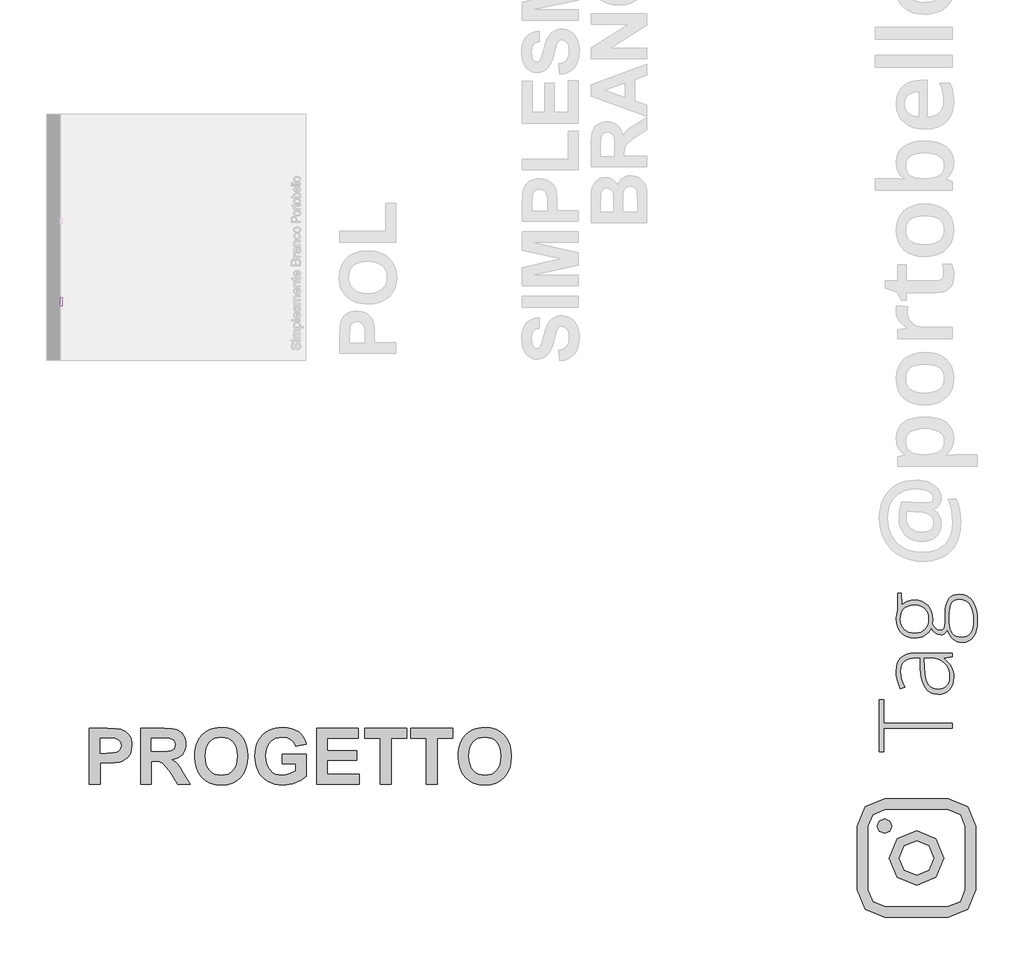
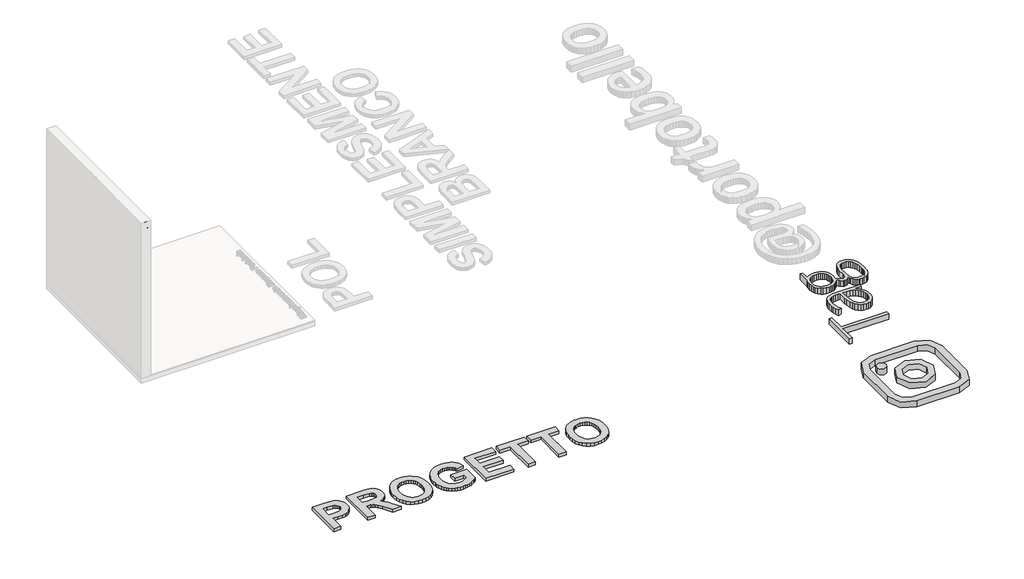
# One storey, part 2 of 6: 4 proxies.
"""IFC4 building model written with IfcOpenShell, lengths in millimetres."""

from ifc_helpers import new_model, si_unit, frame, origin, origin_with_axes, place, context, project, spatial, polyline, outline, extrude, transform, mapped, element, save
from components import generic_models_d67f6705

model = new_model("IFC4")

# Units and contexts
model_context = context("Model", 3, world=origin())
ifc_project = project(units=[si_unit("LENGTHUNIT", "METRE", prefix="MILLI")], contexts=[model_context])

# Site, building, storey
site = spatial("IfcSite", under=ifc_project)
building = spatial("IfcBuilding", under=site)
storey = spatial("IfcBuildingStorey", under=building, Name="PORTOBELLO - SHOWROOM", Elevation=0.0)

# Proxies
placement = place(None, origin())
generic_models_shape = generic_models_d67f6705(model_context)
element("IfcBuildingElementProxy", 1, Name="Blks_Instagram1 : Único 2", ObjectType="Blks_Instagram1 : Único 2", at=placement, inside=storey, context=model_context, shape_type="MappedRepresentation", body=[
    mapped(generic_models_shape, transform((250579.4311931, -13501.2406298, 0.0), x_axis=(-1.0, 0.0, 0.0), y_axis=(0.0, -1.0, 0.0), z_axis=(0.0, 0.0, 1.0))),
])
element("IfcBuildingElementProxy", 2, Name="10mm Arial", ObjectType="10mm Arial", at=placement, inside=storey, context=model_context, shape_type="SweptSolid", body=[
    extrude(outline(polyline([(-7937.0459991, 2512.7580215), (-7924.4889603, 2512.7580215), (-7920.4422583, 2500.18872), (-7910.5584954, 2492.242469), (-7895.4998591, 2489.2135739), (-7882.3787346, 2491.506705), (-7873.9051859, 2497.8097498), (-7871.1215455, 2506.2342475), (-7873.2062102, 2514.070134), (-7881.7410724, 2519.7723049), (-7900.0248076, 2524.5670336), (-7919.7064943, 2530.7597138), (-7930.3873349, 2540.1039165), (-7933.9067394, 2552.5873789), (-7929.5534691, 2566.7998866), (-7916.8370148, 2576.8308024), (-7898.2221858, 2580.2521049), (-7878.3565581, 2576.6713868), (-7865.1128063, 2566.1499618), (-7860.1341366, 2550.4291379), (-7872.6911754, 2550.4291379), (-7874.9965692, 2557.9216678), (-7879.8035606, 2563.3295332), (-7897.7316765, 2567.6950662), (-7915.7088433, 2563.3785841), (-7921.3497006, 2552.9552609), (-7917.3520496, 2544.2487203), (-7896.8487597, 2537.234437), (-7874.6286872, 2530.9313921), (-7862.4763186, 2520.7533236), (-7858.5645067, 2506.5530786), (-7863.0649298, 2491.5312304), (-7876.0143761, 2480.568347), (-7895.0093497, 2476.6565351), (-7917.4378887, 2480.8749153), (-7931.625871, 2493.5791069), (-7937.0459991, 2512.7580215)])), frame((241170.995962, 0.0, 0.0), z_axis=(1.0, 0.0, 0.0), x_axis=(0.0, 1.0, 0.0)), (0.0, 0.0, 1.0), 20.0),
    extrude(outline(polyline([(241190.995962, -7828.7415397), (241190.995962, -7841.2985784), (241170.995962, -7841.2985784), (241170.995962, -7828.7415397), (241190.995962, -7828.7415397)])), frame((0.0, 0.0, 2566.1254363), z_axis=(0.0, 0.0, 1.0), x_axis=(1.0, 0.0, 0.0)), (0.0, 0.0, 1.0), 12.5570388),
    extrude(outline(polyline([(241190.995962, -7828.7415397), (241190.995962, -7841.2985784), (241170.995962, -7841.2985784), (241170.995962, -7828.7415397), (241190.995962, -7828.7415397)])), frame((0.0, 0.0, 2478.2261649), z_axis=(0.0, 0.0, 1.0), x_axis=(1.0, 0.0, 0.0)), (0.0, 0.0, 1.0), 73.7726028),
    extrude(outline(polyline([(-7809.9059815, 2478.2261649), (-7809.9059815, 2551.9987677), (-7797.3489427, 2551.9987677), (-7797.3489427, 2539.8586619), (-7788.7159786, 2549.8037385), (-7776.42872, 2553.5683975), (-7763.8471557, 2549.7301621), (-7756.9309742, 2538.9757451), (-7747.1330504, 2549.9202344), (-7734.7599526, 2553.5683975), (-7725.3207138, 2552.0508843), (-7718.3401529, 2547.4983446), (-7714.0267365, 2539.7881511), (-7712.5889311, 2528.7976765), (-7712.5889311, 2478.2261649), (-7725.1459698, 2478.2261649), (-7725.1459698, 2523.4020739), (-7726.3109295, 2533.8867108), (-7730.5293097, 2539.0493215), (-7737.7030086, 2541.0113588), (-7750.0515809, 2535.9836382), (-7753.7395979, 2529.44147), (-7754.9689369, 2519.8704068), (-7754.9689369, 2478.2261649), (-7767.5259757, 2478.2261649), (-7767.5259757, 2524.8000255), (-7770.4322434, 2536.9646568), (-7779.9603871, 2541.0113588), (-7789.2555389, 2538.3135575), (-7795.4359564, 2530.4163573), (-7797.3489427, 2515.4312974), (-7797.3489427, 2478.2261649), (-7809.9059815, 2478.2261649)])), frame((241170.995962, 0.0, 0.0), z_axis=(1.0, 0.0, 0.0), x_axis=(0.0, 1.0, 0.0)), (0.0, 0.0, 1.0), 20.0),
    extrude(outline(polyline([(-7693.7533729, 2449.9728277), (-7693.7533729, 2551.9987677), (-7681.1963341, 2551.9987677), (-7681.1963341, 2539.6869836), (-7672.5143191, 2550.0980441), (-7660.7911461, 2553.5683975), (-7644.8741185, 2548.7123552), (-7634.4753208, 2535.027145), (-7630.9681791, 2515.676552), (-7634.9290419, 2495.3326777), (-7646.4314856, 2481.4757892), (-7662.3117251, 2476.6565351), (-7673.2378203, 2479.8816339), (-7681.1963341, 2488.0363515), (-7681.1963341, 2449.9728277), (-7693.7533729, 2449.9728277)]), holes=[polyline([(-7681.1963341, 2514.5238551), (-7679.8382364, 2503.2666661), (-7675.7639433, 2495.3939914), (-7669.7521384, 2490.7586782), (-7662.5815052, 2489.2135739), (-7655.294376, 2490.8138605), (-7649.1292869, 2495.6147206), (-7644.9262351, 2503.7755695), (-7643.5252178, 2515.4558228), (-7644.8925126, 2526.6516982), (-7648.9943968, 2534.6347375), (-7654.9970047, 2539.4172035), (-7662.0664704, 2541.0113588), (-7669.1635272, 2539.3160359), (-7675.3960613, 2534.2300673), (-7679.7462659, 2525.9128686), (-7681.1963341, 2514.5238551)])]), frame((241170.995962, 0.0, 0.0), z_axis=(1.0, 0.0, 0.0), x_axis=(0.0, 1.0, 0.0)), (0.0, 0.0, 1.0), 20.0),
    extrude(outline(polyline([(241190.995962, -7604.2844717), (241190.995962, -7616.8415104), (241170.995962, -7616.8415104), (241170.995962, -7604.2844717), (241190.995962, -7604.2844717)])), frame((0.0, 0.0, 2478.2261649), z_axis=(0.0, 0.0, 1.0), x_axis=(1.0, 0.0, 0.0)), (0.0, 0.0, 1.0), 100.4563101),
    extrude(outline(polyline([(-7533.7982814, 2500.2009828), (-7521.4864973, 2498.6313529), (-7525.922541, 2489.3545953), (-7533.0012037, 2482.4200197), (-7542.5630699, 2478.0974062), (-7554.4487241, 2476.6565351), (-7569.182398, 2479.1428042), (-7580.5192948, 2486.6016117), (-7587.748176, 2498.5485795), (-7590.1578031, 2514.4993297), (-7587.7236505, 2530.9865744), (-7580.4211929, 2543.3167526), (-7569.2375803, 2551.0054863), (-7555.1599626, 2553.5683975), (-7541.5207376, 2551.0116177), (-7530.6222335, 2543.3412781), (-7523.4761258, 2531.0356253), (-7521.0940898, 2514.5729061), (-7521.1676662, 2511.1883917), (-7577.6007643, 2511.1883917), (-7575.4271948, 2501.7890067), (-7570.3780145, 2494.8789566), (-7563.0908853, 2490.6299195), (-7554.2034694, 2489.2135739), (-7541.8916853, 2491.8377988), (-7533.7982814, 2500.2009828)]), holes=[polyline([(-7577.6007643, 2523.7454305), (-7533.6511286, 2523.7454305), (-7538.6788492, 2535.1252469), (-7545.9997009, 2539.5398308), (-7555.2090135, 2541.0113588), (-7570.6723201, 2536.314732), (-7575.5375594, 2530.8240932), (-7577.6007643, 2523.7454305)])]), frame((241170.995962, 0.0, 0.0), z_axis=(1.0, 0.0, 0.0), x_axis=(0.0, 1.0, 0.0)), (0.0, 0.0, 1.0), 20.0),
    extrude(outline(polyline([(-7513.2459406, 2500.2009828), (-7500.6889018, 2501.7706126), (-7494.8763663, 2492.4509354), (-7481.5590381, 2489.2135739), (-7468.7567447, 2492.1811553), (-7464.5874154, 2499.1463877), (-7468.7812701, 2504.787245), (-7481.7061909, 2508.3679631), (-7500.6153254, 2514.5115924), (-7508.8681449, 2521.6852913), (-7511.6763108, 2531.8143089), (-7509.4199679, 2541.1707743), (-7503.2640758, 2548.3199478), (-7495.2810365, 2552.0355559), (-7484.4775686, 2553.5683975), (-7469.1982031, 2551.1035882), (-7459.4861184, 2544.4326613), (-7455.1696363, 2533.1632095), (-7467.7266751, 2531.5935797), (-7472.4478273, 2538.5220239), (-7483.4965499, 2541.0113588), (-7495.5140284, 2538.6323885), (-7499.119272, 2533.0896331), (-7497.6232185, 2529.4353387), (-7492.9388545, 2526.663961), (-7482.1231238, 2523.9906851), (-7463.6922359, 2518.0800477), (-7455.1328481, 2511.3845954), (-7452.0303766, 2500.4707629), (-7455.6724084, 2488.4532844), (-7466.1815707, 2479.7344811), (-7481.7307164, 2476.6565351), (-7494.3919884, 2478.1403258), (-7503.6319578, 2482.5916979), (-7509.8001126, 2489.9616006), (-7513.2459406, 2500.2009828)])), frame((241170.995962, 0.0, 0.0), z_axis=(1.0, 0.0, 0.0), x_axis=(0.0, 1.0, 0.0)), (0.0, 0.0, 1.0), 20.0),
    extrude(outline(polyline([(-7437.903708, 2478.2261649), (-7437.903708, 2551.9987677), (-7425.3466692, 2551.9987677), (-7425.3466692, 2539.8586619), (-7416.7137051, 2549.8037385), (-7404.4264464, 2553.5683975), (-7391.8448822, 2549.7301621), (-7384.9287007, 2538.9757451), (-7375.1307769, 2549.9202344), (-7362.7576791, 2553.5683975), (-7353.3184403, 2552.0508843), (-7346.3378794, 2547.4983446), (-7342.024463, 2539.7881511), (-7340.5866575, 2528.7976765), (-7340.5866575, 2478.2261649), (-7353.1436963, 2478.2261649), (-7353.1436963, 2523.4020739), (-7354.308656, 2533.8867108), (-7358.5270362, 2539.0493215), (-7365.7007351, 2541.0113588), (-7378.0493074, 2535.9836382), (-7381.7373244, 2529.44147), (-7382.9666634, 2519.8704068), (-7382.9666634, 2478.2261649), (-7395.5237021, 2478.2261649), (-7395.5237021, 2524.8000255), (-7398.4299699, 2536.9646568), (-7407.9581136, 2541.0113588), (-7417.2532653, 2538.3135575), (-7423.4336829, 2530.4163573), (-7425.3466692, 2515.4312974), (-7425.3466692, 2478.2261649), (-7437.903708, 2478.2261649)])), frame((241170.995962, 0.0, 0.0), z_axis=(1.0, 0.0, 0.0), x_axis=(0.0, 1.0, 0.0)), (0.0, 0.0, 1.0), 20.0),
    extrude(outline(polyline([(-7270.1004673, 2500.2009828), (-7257.7886832, 2498.6313529), (-7262.2247269, 2489.3545953), (-7269.3033896, 2482.4200197), (-7278.8652558, 2478.0974062), (-7290.7509099, 2476.6565351), (-7305.4845838, 2479.1428042), (-7316.8214806, 2486.6016117), (-7324.0503619, 2498.5485795), (-7326.4599889, 2514.4993297), (-7324.0258364, 2530.9865744), (-7316.7233788, 2543.3167526), (-7305.5397661, 2551.0054863), (-7291.4621484, 2553.5683975), (-7277.8229235, 2551.0116177), (-7266.9244194, 2543.3412781), (-7259.7783116, 2531.0356253), (-7257.3962757, 2514.5729061), (-7257.4698521, 2511.1883917), (-7313.9029502, 2511.1883917), (-7311.7293807, 2501.7890067), (-7306.6802003, 2494.8789566), (-7299.3930711, 2490.6299195), (-7290.5056553, 2489.2135739), (-7278.1938712, 2491.8377988), (-7270.1004673, 2500.2009828)]), holes=[polyline([(-7313.9029502, 2523.7454305), (-7269.9533145, 2523.7454305), (-7274.9810351, 2535.1252469), (-7282.3018868, 2539.5398308), (-7291.5111994, 2541.0113588), (-7306.9745059, 2536.314732), (-7311.8397453, 2530.8240932), (-7313.9029502, 2523.7454305)])]), frame((241170.995962, 0.0, 0.0), z_axis=(1.0, 0.0, 0.0), x_axis=(0.0, 1.0, 0.0)), (0.0, 0.0, 1.0), 20.0),
    extrude(outline(polyline([(-7244.8392369, 2478.2261649), (-7244.8392369, 2551.9987677), (-7232.2821982, 2551.9987677), (-7232.2821982, 2541.6980718), (-7222.6804781, 2550.6008161), (-7209.5716163, 2553.5683975), (-7197.7135533, 2551.1771646), (-7189.6201494, 2544.8986452), (-7185.8554904, 2535.6648071), (-7185.1933028, 2523.5247013), (-7185.1933028, 2478.2261649), (-7197.7503415, 2478.2261649), (-7197.7503415, 2521.8324441), (-7199.1973441, 2532.9424804), (-7204.3109038, 2538.8163295), (-7212.9316052, 2541.0113588), (-7226.5555018, 2536.08174), (-7230.8505241, 2528.938698), (-7232.2821982, 2517.3688092), (-7232.2821982, 2478.2261649), (-7244.8392369, 2478.2261649)])), frame((241170.995962, 0.0, 0.0), z_axis=(1.0, 0.0, 0.0), x_axis=(0.0, 1.0, 0.0)), (0.0, 0.0, 1.0), 20.0),
    extrude(outline(polyline([(-7141.2436671, 2488.6985391), (-7139.6740372, 2477.8582829), (-7149.0672908, 2476.6565351), (-7159.5887159, 2478.7411997), (-7164.8371657, 2484.2103787), (-7166.3577446, 2498.4596747), (-7166.3577446, 2539.4417289), (-7175.7755237, 2539.4417289), (-7175.7755237, 2551.9987677), (-7166.3577446, 2551.9987677), (-7166.3577446, 2569.9268836), (-7153.8007059, 2577.309049), (-7153.8007059, 2551.9987677), (-7141.2436671, 2551.9987677), (-7141.2436671, 2539.4417289), (-7153.8007059, 2539.4417289), (-7153.8007059, 2498.8275567), (-7153.1385183, 2492.3528336), (-7150.99254, 2490.0597024), (-7146.7128461, 2489.2135739), (-7141.2436671, 2488.6985391)])), frame((241170.995962, 0.0, 0.0), z_axis=(1.0, 0.0, 0.0), x_axis=(0.0, 1.0, 0.0)), (0.0, 0.0, 1.0), 20.0),
    extrude(outline(polyline([(-7077.0359962, 2500.2009828), (-7064.7242121, 2498.6313529), (-7069.1602558, 2489.3545953), (-7076.2389185, 2482.4200197), (-7085.8007847, 2478.0974062), (-7097.6864389, 2476.6565351), (-7112.4201128, 2479.1428042), (-7123.7570096, 2486.6016117), (-7130.9858908, 2498.5485795), (-7133.3955179, 2514.4993297), (-7130.9613653, 2530.9865744), (-7123.6589077, 2543.3167526), (-7112.4752951, 2551.0054863), (-7098.3976774, 2553.5683975), (-7084.7584524, 2551.0116177), (-7073.8599483, 2543.3412781), (-7066.7138405, 2531.0356253), (-7064.3318046, 2514.5729061), (-7064.405381, 2511.1883917), (-7120.8384791, 2511.1883917), (-7118.6649096, 2501.7890067), (-7113.6157292, 2494.8789566), (-7106.3286001, 2490.6299195), (-7097.4411842, 2489.2135739), (-7085.1294001, 2491.8377988), (-7077.0359962, 2500.2009828)]), holes=[polyline([(-7120.8384791, 2523.7454305), (-7076.8888434, 2523.7454305), (-7081.916564, 2535.1252469), (-7089.2374157, 2539.5398308), (-7098.4467283, 2541.0113588), (-7113.9100348, 2536.314732), (-7118.7752742, 2530.8240932), (-7120.8384791, 2523.7454305)])]), frame((241170.995962, 0.0, 0.0), z_axis=(1.0, 0.0, 0.0), x_axis=(0.0, 1.0, 0.0)), (0.0, 0.0, 1.0), 20.0),
    extrude(outline(polyline([(-7010.9643899, 2478.2261649), (-7010.9643899, 2578.6824751), (-6972.631086, 2578.6824751), (-6953.8568415, 2575.7271564), (-6942.7713307, 2566.6404711), (-6938.7614169, 2553.7891267), (-6942.1336686, 2542.0536911), (-6952.3239998, 2533.1632095), (-6939.9509021, 2523.7944814), (-6935.6221572, 2508.1717593), (-6938.5774759, 2494.6704901), (-6945.8983276, 2485.0565073), (-6956.8244229, 2479.9552103), (-6972.9253916, 2478.2261649), (-7010.9643899, 2478.2261649)]), holes=[polyline([(-6998.4073511, 2537.8720991), (-6975.4760401, 2537.8720991), (-6962.0851354, 2538.9512196), (-6954.0285197, 2543.5987955), (-6951.3184557, 2551.7780385), (-6953.8445787, 2559.9695443), (-6961.0795913, 2564.8133239), (-6977.2173482, 2566.1254363), (-6998.4073511, 2566.1254363), (-6998.4073511, 2537.8720991)]), polyline([(-6998.4073511, 2490.7832037), (-6972.6556114, 2490.7832037), (-6963.3359342, 2491.273713), (-6955.4509968, 2494.0083025), (-6950.2270725, 2499.5878461), (-6948.179196, 2508.049132), (-6950.5826917, 2517.8102676), (-6958.3695273, 2523.6350659), (-6973.8818847, 2525.3150603), (-6998.4073511, 2525.3150603), (-6998.4073511, 2490.7832037)])]), frame((241170.995962, 0.0, 0.0), z_axis=(1.0, 0.0, 0.0), x_axis=(0.0, 1.0, 0.0)), (0.0, 0.0, 1.0), 20.0),
    extrude(outline(polyline([(-6919.9258588, 2478.2261649), (-6919.9258588, 2551.9987677), (-6908.9384499, 2551.9987677), (-6908.9384499, 2541.0849352), (-6901.1393516, 2551.1403764), (-6893.2912023, 2553.5683975), (-6880.6851126, 2549.6933739), (-6884.8789674, 2538.4361848), (-6893.7081353, 2541.0113588), (-6900.8082578, 2538.5342867), (-6905.3332063, 2531.6671561), (-6907.36882, 2517.0009272), (-6907.36882, 2478.2261649), (-6919.9258588, 2478.2261649)])), frame((241170.995962, 0.0, 0.0), z_axis=(1.0, 0.0, 0.0), x_axis=(0.0, 1.0, 0.0)), (0.0, 0.0, 1.0), 20.0),
    extrude(outline(polyline([(-6825.748068, 2487.643944), (-6837.9249621, 2479.1336072), (-6851.3771804, 2476.6565351), (-6861.8710143, 2478.1464572), (-6869.6118646, 2482.6162234), (-6874.3851335, 2489.4036462), (-6875.9762231, 2497.846538), (-6873.5727274, 2507.7793519), (-6867.2574198, 2514.989839), (-6858.4650401, 2519.1101173), (-6847.6002585, 2520.9985782), (-6825.8216444, 2525.3150603), (-6825.748068, 2528.1109635), (-6829.2061588, 2537.3815898), (-6843.0875727, 2541.0113588), (-6855.7917643, 2538.5956003), (-6861.8495545, 2530.0239499), (-6874.4065932, 2531.5935797), (-6868.9742025, 2543.8563129), (-6858.0358445, 2551.0422745), (-6841.4688919, 2553.5683975), (-6826.2508401, 2551.3365801), (-6817.6546641, 2545.7325111), (-6813.8041659, 2537.2099115), (-6813.1910293, 2526.2225026), (-6813.1910293, 2510.5997805), (-6812.5533671, 2488.7843782), (-6810.0517696, 2478.2261649), (-6822.6088083, 2478.2261649), (-6825.748068, 2487.643944)]), holes=[polyline([(-6825.748068, 2512.7580215), (-6846.0061032, 2508.9075233), (-6856.8095711, 2506.8719096), (-6861.7024017, 2503.5609717), (-6863.4191843, 2498.7294548), (-6859.6790507, 2491.9359006), (-6848.7039045, 2489.2135739), (-6835.999713, 2492.2179435), (-6827.8082072, 2499.4897443), (-6825.8216444, 2509.2018289), (-6825.748068, 2512.7580215)])]), frame((241170.995962, 0.0, 0.0), z_axis=(1.0, 0.0, 0.0), x_axis=(0.0, 1.0, 0.0)), (0.0, 0.0, 1.0), 20.0),
    extrude(outline(polyline([(-6795.9251009, 2478.2261649), (-6795.9251009, 2551.9987677), (-6783.3680622, 2551.9987677), (-6783.3680622, 2541.6980718), (-6773.7663421, 2550.6008161), (-6760.6574803, 2553.5683975), (-6748.7994174, 2551.1771646), (-6740.7060135, 2544.8986452), (-6736.9413544, 2535.6648071), (-6736.2791668, 2523.5247013), (-6736.2791668, 2478.2261649), (-6748.8362056, 2478.2261649), (-6748.8362056, 2521.8324441), (-6750.2832081, 2532.9424804), (-6755.3967678, 2538.8163295), (-6764.0174692, 2541.0113588), (-6777.6413658, 2536.08174), (-6781.9363881, 2528.938698), (-6783.3680622, 2517.3688092), (-6783.3680622, 2478.2261649), (-6795.9251009, 2478.2261649)])), frame((241170.995962, 0.0, 0.0), z_axis=(1.0, 0.0, 0.0), x_axis=(0.0, 1.0, 0.0)), (0.0, 0.0, 1.0), 20.0),
    extrude(outline(polyline([(-6671.9243431, 2504.9098723), (-6659.3673043, 2503.3402425), (-6662.8683147, 2492.1719582), (-6669.447271, 2483.7321321), (-6678.4849054, 2478.4254343), (-6689.3619497, 2476.6565351), (-6702.7191318, 2479.1244101), (-6713.1639148, 2486.5280353), (-6719.9053523, 2498.5424481), (-6722.1524982, 2514.8426862), (-6718.3142627, 2535.7015953), (-6706.6156152, 2549.1047627), (-6689.5336279, 2553.5683975), (-6678.9232981, 2552.0355559), (-6670.4405524, 2547.437031), (-6664.3551711, 2540.0180774), (-6660.9369342, 2530.0239499), (-6673.4939729, 2528.45432), (-6679.3187712, 2537.8598364), (-6689.4355261, 2541.0113588), (-6697.5503898, 2539.460123), (-6703.9913903, 2534.8064158), (-6708.1944421, 2526.798851), (-6709.5954594, 2515.1860427), (-6708.225099, 2503.4168846), (-6704.1140177, 2495.3817286), (-6697.789513, 2490.7556126), (-6689.7788826, 2489.2135739), (-6677.9453451, 2493.0640721), (-6671.9243431, 2504.9098723)])), frame((241170.995962, 0.0, 0.0), z_axis=(1.0, 0.0, 0.0), x_axis=(0.0, 1.0, 0.0)), (0.0, 0.0, 1.0), 20.0),
    extrude(outline(polyline([(-6651.5191551, 2515.1124663), (-6648.8029597, 2532.8995608), (-6640.6543735, 2545.4014173), (-6630.5866696, 2551.5266525), (-6618.5324029, 2553.5683975), (-6605.3407677, 2551.0821284), (-6594.8040142, 2543.6233209), (-6587.8970297, 2531.7805864), (-6585.5947016, 2516.1425359), (-6589.665929, 2493.7998361), (-6601.523992, 2481.1569582), (-6618.5324029, 2476.6565351), (-6631.8834536, 2479.1336072), (-6642.4079444, 2486.5648235), (-6649.2413524, 2498.6558784), (-6651.5191551, 2515.1124663)]), holes=[polyline([(-6638.9621163, 2515.1369918), (-6637.5089825, 2503.7725038), (-6633.1495808, 2495.6760342), (-6626.5890186, 2490.829189), (-6618.5324029, 2489.2135739), (-6610.5125754, 2490.838386), (-6603.9642759, 2495.7128224), (-6599.6048742, 2503.9165909), (-6598.1517403, 2515.5293992), (-6599.6140713, 2526.5627934), (-6604.0010641, 2534.5488984), (-6610.5585606, 2539.3957437), (-6618.5324029, 2541.0113588), (-6626.5890186, 2539.4018751), (-6633.1495808, 2534.5734239), (-6637.5089825, 2526.4953484), (-6638.9621163, 2515.1369918)])]), frame((241170.995962, 0.0, 0.0), z_axis=(1.0, 0.0, 0.0), x_axis=(0.0, 1.0, 0.0)), (0.0, 0.0, 1.0), 20.0),
])
element("IfcBuildingElementProxy", 3, Name="600mm Arial", ObjectType="600mm Arial", at=placement, inside=storey, context=model_context, shape_type="SweptSolid", body=[
    extrude(outline(polyline([(241492.3792065, -12688.7002712), (241492.3792065, -12076.5446312), (241689.5989923, -12076.5446312), (241782.2497808, -12078.821996), (241835.8058081, -12085.6540901), (241860.9279878, -12094.502601), (241883.915138, -12107.3839453), (241904.7672589, -12124.2981229), (241923.4843502, -12145.245134), (241938.9277298, -12169.8738846), (241949.9587153, -12197.8332812), (241956.5773065, -12229.1233238), (241958.7835036, -12263.7440122), (241953.6024988, -12315.3073453), (241947.1262429, -12337.7441325), (241938.0594845, -12357.9509999), (241914.5267156, -12392.0355588), (241885.3764471, -12417.9216046), (241853.1707141, -12436.0456322), (241820.4715522, -12446.8441366), (241765.6250182, -12453.3346261), (241690.6617625, -12455.4981226), (241608.9802808, -12455.4981226), (241608.9802808, -12688.7002712), (241492.3792065, -12688.7002712)]), holes=[polyline([(241608.9802808, -12183.4289493), (241608.9802808, -12348.6138045), (241681.4004792, -12348.6138045), (241746.6280008, -12346.3364398), (241785.9315204, -12339.5043456), (241809.4263333, -12327.7948953), (241827.2277342, -12310.8854621), (241838.4437555, -12289.8008603), (241842.1824293, -12265.565904), (241836.9255124, -12236.6054158), (241821.1547616, -12213.1865151), (241797.3752782, -12196.4099283), (241768.0921634, -12187.3763815), (241672.8983176, -12183.4289493), (241608.9802808, -12183.4289493)])]), origin_with_axes(), (0.0, 0.0, 1.0), 50.0),
    extrude(outline(polyline([(242055.9510655, -12688.7002712), (242055.9510655, -12076.5446312), (242313.4451045, -12076.5446312), (242397.3280388, -12080.6818438), (242429.3060353, -12085.8533596), (242454.6417179, -12093.0934816), (242475.5555174, -12102.9810401), (242494.2678643, -12116.0948654), (242510.7787586, -12132.4349574), (242525.0882003, -12152.001316), (242536.6458263, -12173.9494186), (242544.9012735, -12197.4347424), (242549.8545418, -12222.4572874), (242551.5056312, -12249.0170536), (242549.1191427, -12282.1242434), (242541.9596774, -12312.2139249), (242530.0272351, -12339.2860982), (242513.3218158, -12363.3407631), (242491.8623978, -12383.7990897), (242465.6679588, -12400.0822475), (242434.7384991, -12412.1902366), (242399.0740185, -12420.1230571), (242432.8928847, -12444.4908598), (242460.2592176, -12471.1360271), (242488.5744524, -12509.7373593), (242525.2400246, -12569.9736565), (242600.0894121, -12688.7002712), (242463.9030012, -12688.7002712), (242375.2376009, -12548.8700766), (242332.4041659, -12495.1812031), (242305.6261523, -12465.8980882), (242286.3065081, -12451.4937563), (242265.8481816, -12442.4412315), (242238.6906072, -12437.6587656), (242199.2732193, -12436.0646103), (242172.5521398, -12436.0646103), (242172.5521398, -12688.7002712), (242055.9510655, -12688.7002712)]), holes=[polyline([(242172.5521398, -12329.1802922), (242268.6569315, -12329.1802922), (242344.5121551, -12327.4153345), (242385.3339179, -12322.1204615), (242406.095893, -12312.5175735), (242421.7717536, -12297.828571), (242431.6213561, -12278.4519928), (242434.9045569, -12254.7863776), (242430.5775639, -12228.5777051), (242417.5965849, -12207.9485763), (242396.7207416, -12193.39242), (242368.7091554, -12185.4026654), (242273.9707825, -12183.4289493), (242172.5521398, -12183.4289493), (242172.5521398, -12329.1802922)])]), origin_with_axes(), (0.0, 0.0, 1.0), 50.0),
    extrude(outline(polyline([(242648.6731931, -12386.4180591), (242650.3907057, -12341.610908), (242655.5432434, -12300.5614087), (242664.1308062, -12263.2695612), (242676.1533942, -12229.7353655), (242700.3883505, -12185.4975556), (242732.1006544, -12146.0042555), (242769.2406776, -12113.6846544), (242809.7587918, -12090.9679412), (242838.9280384, -12080.4066622), (242870.2607815, -12072.8628916), (242903.7570211, -12068.3366292), (242939.4167572, -12066.827875), (243002.5187383, -12072.0610694), (243058.9784056, -12087.7606525), (243108.7957592, -12113.9266244), (243151.9707989, -12150.558985), (243170.6523064, -12172.5130183), (243186.8429463, -12196.509563), (243211.7516231, -12250.6301869), (243226.6968291, -12312.9208569), (243231.6785645, -12383.3815728), (243226.7347852, -12453.3630932), (243211.9034474, -12515.2789468), (243187.184551, -12569.1291337), (243171.1172684, -12593.0296022), (243152.5780961, -12614.9136539), (243109.687727, -12651.4463798), (243060.117088, -12677.541184), (243003.8661791, -12693.1980665), (242940.9350004, -12698.4170274), (242877.3395902, -12693.2217891), (242820.6142304, -12677.6360742), (242770.7589208, -12651.6598827), (242727.7736614, -12615.2932147), (242693.1672065, -12569.8170877), (242668.4483102, -12516.5125194), (242653.6169724, -12455.3795099), (242648.6731931, -12386.4180591)]), holes=[polyline([(242765.2742674, -12382.1669783), (242768.3724323, -12430.5894459), (242777.6669271, -12472.7681385), (242793.1577518, -12508.7030562), (242814.8449064, -12538.3941989), (242841.3050379, -12561.6422972), (242871.1147933, -12578.2480817), (242904.2741727, -12588.2115524), (242940.7831761, -12591.5327093), (242977.2542233, -12588.2352749), (243010.2997345, -12578.3429719), (243039.9197095, -12561.8558001), (243066.1141485, -12538.7737597), (243087.5356105, -12509.0968505), (243102.8366548, -12472.8250726), (243112.0172814, -12429.9584261), (243115.0774902, -12380.4969108), (243112.097938, -12331.7233494), (243103.1592814, -12289.5541458), (243088.2615205, -12253.9892999), (243067.4046552, -12225.0288117), (243041.6134996, -12202.5777911), (243011.9128679, -12186.5413478), (242978.30276, -12176.9194818), (242940.7831761, -12173.7121931), (242903.225636, -12176.9574379), (242869.5016599, -12186.6931721), (242839.6112478, -12202.9193958), (242813.5543997, -12225.636109), (242792.4318418, -12254.8907568), (242777.3443004, -12290.7307843), (242768.2917756, -12333.1561914), (242765.2742674, -12382.1669783)])]), origin_with_axes(), (0.0, 0.0, 1.0), 50.0),
    extrude(outline(polyline([(243610.6320559, -12465.2148788), (243610.6320559, -12358.3305607), (243872.984473, -12358.3305607), (243872.984473, -12602.46406), (243851.7100908, -12620.9439259), (243826.1466717, -12638.2756204), (243762.1527227, -12669.4944953), (243725.7528431, -12682.1481031), (243689.125227, -12691.1863944), (243652.2698744, -12696.6093691), (243615.1867854, -12698.4170274), (243569.4781774, -12695.9024372), (243526.7870777, -12688.3586665), (243487.1134863, -12675.7857154), (243450.4574031, -12658.1835838), (243417.4925486, -12635.90811), (243388.8926432, -12609.3151322), (243364.6576868, -12578.4046505), (243344.7876795, -12543.1766648), (243329.3110884, -12504.9691269), (243318.2563804, -12465.1199886), (243311.6235556, -12423.6292499), (243309.412614, -12380.4969108), (243311.9129707, -12334.147794), (243319.4140408, -12290.4461137), (243331.9158243, -12249.3918699), (243349.4183211, -12210.9850626), (243371.74124, -12176.0607255), (243398.7042895, -12145.4538924), (243430.3074697, -12119.1645633), (243466.5507805, -12097.1927381), (243497.7316993, -12083.9081105), (243532.5184456, -12074.4190908), (243570.9110194, -12068.725679), (243612.9094206, -12066.827875), (243666.6599728, -12069.8928284), (243714.1952171, -12079.0876885), (243755.5151535, -12094.4124553), (243790.6197819, -12115.8671289), (243819.765306, -12142.7305437), (243843.2079292, -12174.2815343), (243860.9476515, -12210.5201006), (243872.984473, -12251.4462426), (243756.3833988, -12270.879755), (243748.0615285, -12249.5247161), (243736.760106, -12230.5514212), (243722.4791313, -12213.9598702), (243705.2186044, -12199.7500632), (243685.3011521, -12188.3584951), (243663.0494008, -12180.2216606), (243638.4633507, -12175.33956), (243611.5430018, -12173.7121931), (243571.205179, -12176.8910147), (243535.2133272, -12186.4274795), (243503.5674464, -12202.3215876), (243476.2675367, -12224.5733388), (243454.281478, -12253.0878431), (243438.5771504, -12287.7702101), (243429.1545538, -12328.62044), (243426.0136883, -12375.6385327), (243429.1355758, -12426.2387303), (243438.5012382, -12470.092235), (243454.1106757, -12507.1990466), (243475.9638881, -12537.5591651), (243502.884237, -12561.1725907), (243533.695084, -12578.0393233), (243568.3964291, -12588.1593628), (243606.9882723, -12591.5327093), (243647.0129575, -12587.8319916), (243687.2274231, -12576.7298385), (243724.6710949, -12560.3517905), (243756.3833988, -12540.8233879), (243756.3833988, -12465.2148788), (243610.6320559, -12465.2148788)])), origin_with_axes(), (0.0, 0.0, 1.0), 50.0),
    extrude(outline(polyline([(243989.5855473, -12688.7002712), (243989.5855473, -12076.5446312), (244446.2730883, -12076.5446312), (244446.2730883, -12183.4289493), (244106.1866216, -12183.4289493), (244106.1866216, -12319.463536), (244426.8395759, -12319.463536), (244426.8395759, -12426.3478541), (244106.1866216, -12426.3478541), (244106.1866216, -12581.8159531), (244455.9898444, -12581.8159531), (244455.9898444, -12688.7002712), (243989.5855473, -12688.7002712)])), origin_with_axes(), (0.0, 0.0, 1.0), 50.0),
    extrude(outline(polyline([(244689.191993, -12688.7002712), (244689.191993, -12183.4289493), (244514.2903816, -12183.4289493), (244514.2903816, -12076.5446312), (244980.6946787, -12076.5446312), (244980.6946787, -12183.4289493), (244805.7930673, -12183.4289493), (244805.7930673, -12688.7002712), (244689.191993, -12688.7002712)])), origin_with_axes(), (0.0, 0.0, 1.0), 50.0),
    extrude(outline(polyline([(245194.4633149, -12688.7002712), (245194.4633149, -12183.4289493), (245019.5617035, -12183.4289493), (245019.5617035, -12076.5446312), (245485.9660006, -12076.5446312), (245485.9660006, -12183.4289493), (245311.0643892, -12183.4289493), (245311.0643892, -12688.7002712), (245194.4633149, -12688.7002712)])), origin_with_axes(), (0.0, 0.0, 1.0), 50.0),
    extrude(outline(polyline([(245544.2665377, -12386.4180591), (245545.9840503, -12341.610908), (245551.136588, -12300.5614087), (245559.7241508, -12263.2695612), (245571.7467388, -12229.7353655), (245595.9816952, -12185.4975556), (245627.6939991, -12146.0042555), (245664.8340223, -12113.6846544), (245705.3521364, -12090.9679412), (245734.5213831, -12080.4066622), (245765.8541262, -12072.8628916), (245799.3503658, -12068.3366292), (245835.0101019, -12066.827875), (245898.112083, -12072.0610694), (245954.5717503, -12087.7606525), (246004.3891038, -12113.9266244), (246047.5641435, -12150.558985), (246066.2456511, -12172.5130183), (246082.436291, -12196.509563), (246107.3449677, -12250.6301869), (246122.2901738, -12312.9208569), (246127.2719091, -12383.3815728), (246122.3281299, -12453.3630932), (246107.496792, -12515.2789468), (246082.7778957, -12569.1291337), (246066.710613, -12593.0296022), (246048.1714408, -12614.9136539), (246005.2810717, -12651.4463798), (245955.7104327, -12677.541184), (245899.4595238, -12693.1980665), (245836.528345, -12698.4170274), (245772.9329349, -12693.2217891), (245716.207575, -12677.6360742), (245666.3522654, -12651.6598827), (245623.3670061, -12615.2932147), (245588.7605512, -12569.8170877), (245564.0416548, -12516.5125194), (245549.210317, -12455.3795099), (245544.2665377, -12386.4180591)]), holes=[polyline([(245660.867612, -12382.1669783), (245663.9657769, -12430.5894459), (245673.2602718, -12472.7681385), (245688.7510964, -12508.7030562), (245710.438251, -12538.3941989), (245736.8983825, -12561.6422972), (245766.7081379, -12578.2480817), (245799.8675173, -12588.2115524), (245836.3765207, -12591.5327093), (245872.847568, -12588.2352749), (245905.8930791, -12578.3429719), (245935.5130542, -12561.8558001), (245961.7074931, -12538.7737597), (245983.1289551, -12509.0968505), (245998.4299994, -12472.8250726), (246007.610626, -12429.9584261), (246010.6708349, -12380.4969108), (246007.6912827, -12331.7233494), (245998.7526261, -12289.5541458), (245983.8548651, -12253.9892999), (245962.9979998, -12225.0288117), (245937.2068442, -12202.5777911), (245907.5062125, -12186.5413478), (245873.8961047, -12176.9194818), (245836.3765207, -12173.7121931), (245798.8189807, -12176.9574379), (245765.0950046, -12186.6931721), (245735.2045925, -12202.9193958), (245709.1477443, -12225.636109), (245688.0251864, -12254.8907568), (245672.9376451, -12290.7307843), (245663.8851203, -12333.1561914), (245660.867612, -12382.1669783)])]), origin_with_axes(), (0.0, 0.0, 1.0), 50.0),
])
element("IfcBuildingElementProxy", 4, Name="80mm OpenSans Light", ObjectType="80mm OpenSans Light", at=placement, inside=storey, context=model_context, shape_type="SweptSolid", body=[
    extrude(outline(polyline([(250971.1441778, -12019.7446899), (250971.1441778, -12076.2308367), (250217.3545772, -12076.2308367), (250217.3545772, -12334.8652787), (250171.2041935, -12334.8652787), (250171.2041935, -11761.3506145), (250217.3545772, -11761.3506145), (250217.3545772, -12019.7446899), (250971.1441778, -12019.7446899)])), origin_with_axes(), (0.0, 0.0, 1.0), 100.0),
    extrude(outline(polyline([(250971.1441778, -11289.7513809), (250875.4782783, -11303.4522761), (250875.4782783, -11307.7788746), (250903.6537485, -11330.6512571), (250927.3674141, -11353.8391208), (250946.619275, -11377.3424656), (250961.4093313, -11401.1612916), (250972.3985909, -11426.2270192), (250980.2480621, -11453.471069), (250984.9577448, -11482.8934409), (250986.5276391, -11514.4941349), (250983.6357286, -11556.3780118), (250974.9599973, -11593.3343738), (250960.5004451, -11625.3632208), (250940.2570721, -11652.4645529), (250914.9059091, -11674.0224307), (250885.1229873, -11689.4209149), (250850.9083067, -11698.6600054), (250812.2618672, -11701.7397022), (250770.0399748, -11697.1502028), (250732.7906661, -11683.3817045), (250700.513941, -11660.4342074), (250673.2097996, -11628.3077114), (250651.3139063, -11587.4979727), (250635.2619255, -11538.5007473), (250625.0538573, -11481.3160352), (250620.6897015, -11415.9438364), (250617.3245694, -11301.2889769), (250576.9429836, -11301.2889769), (250536.3210313, -11303.467299), (250500.9871438, -11310.0022654), (250470.941321, -11320.8938762), (250446.1835631, -11336.1421312), (250426.8340533, -11356.2427866), (250413.0129748, -11381.6915985), (250404.7203277, -11412.4885668), (250401.956112, -11448.6336915), (250404.840511, -11490.8330495), (250413.493708, -11533.7835531), (250427.9157029, -11577.4852023), (250448.1064958, -11621.937997), (250400.9946457, -11642.3691565), (250381.2244944, -11593.0038697), (250367.1029577, -11543.9390412), (250358.6300357, -11495.1746709), (250355.8057283, -11446.7107589), (250359.0431657, -11400.32752), (250368.7554779, -11360.2088352), (250384.9426649, -11326.3547045), (250407.6047267, -11298.7651277), (250437.1172361, -11277.3649905), (250473.8557658, -11262.0791782), (250517.8203159, -11252.9076908), (250569.0108864, -11249.8505283), (250971.1441778, -11249.8505283), (250971.1441778, -11289.7513809)]), holes=[polyline([(250940.3772553, -11511.609736), (250936.8093139, -11465.8499479), (250926.1054896, -11425.1979498), (250908.2657823, -11389.6537415), (250883.2901922, -11359.2173231), (250851.9749334, -11334.820115), (250815.1162204, -11317.3935378), (250772.7140531, -11306.9375915), (250724.7684314, -11303.4522761), (250663.4749531, -11303.4522761), (250668.0419181, -11408.9732055), (250672.9468987, -11467.9832014), (250681.4123092, -11517.8592671), (250693.4381498, -11558.6014027), (250709.0244203, -11590.2096082), (250728.8020831, -11613.8706936), (250753.4021005, -11630.7714689), (250782.8244724, -11640.9119341), (250817.0691989, -11644.2920891), (250844.6512641, -11642.1212784), (250868.9883805, -11635.6088464), (250890.0805481, -11624.7547929), (250907.9277668, -11609.5591181), (250922.124418, -11590.4124175), (250932.2648832, -11567.705287), (250938.3491623, -11541.4377265), (250940.3772553, -11511.609736)])]), origin_with_axes(), (0.0, 0.0, 1.0), 100.0),
    extrude(outline(polyline([(250371.1891896, -10593.6497599), (250409.6478427, -10593.6497599), (250417.3395733, -10716.9578164), (250449.4886036, -10695.2947782), (250483.2000167, -10679.8211795), (250518.4738126, -10670.5370203), (250555.3099913, -10667.4423006), (250597.899945, -10671.0027306), (250636.2534377, -10681.6840205), (250670.3704694, -10699.4861705), (250700.2510401, -10724.4091805), (250724.5430878, -10755.341355), (250741.8945504, -10791.1709986), (250752.305428, -10831.8981113), (250755.7757205, -10877.5226931), (250752.4105884, -10934.0088398), (250770.7084944, -10962.4021423), (250791.9508911, -10983.1638058), (250815.356587, -10995.8731888), (250840.1443907, -11000.1096498), (250864.4815071, -10994.7314476), (250873.8107351, -10988.0086947), (250881.2470762, -10978.5968407), (250890.9819228, -10949.7828967), (250894.2268716, -10906.3666829), (250894.2268716, -10802.5283196), (250896.6906291, -10757.1516158), (250904.0819015, -10717.4085038), (250916.4006888, -10683.2989835), (250933.6469911, -10654.823055), (250955.7156479, -10632.371314), (250982.5014988, -10616.3343561), (251014.0045439, -10606.7121814), (251050.2247832, -10603.5047898), (251094.8803873, -10608.2670527), (251134.1427661, -10622.5538414), (251168.0119198, -10646.3651559), (251196.4878483, -10679.7009962), (251219.0447497, -10721.8252397), (251235.1568221, -10772.0017637), (251244.8240656, -10830.2305681), (251248.0464801, -10896.5116531), (251245.2897759, -10949.3547438), (251237.0196631, -10995.8731888), (251223.236142, -11036.0669882), (251203.9392123, -11069.9361418), (251179.7147677, -11096.8046188), (251151.1487018, -11115.9963881), (251118.2410144, -11127.5114496), (251080.9917057, -11131.3498035), (251050.9609059, -11128.9761835), (251023.6041843, -11121.8553235), (250998.9215409, -11109.9872235), (250976.9129758, -11093.3718836), (250957.8789471, -11072.6853346), (250942.1199131, -11048.6036077), (250929.6358737, -11021.1267028), (250920.4268291, -10990.25462), (250907.0263921, -11014.4715531), (250888.9388068, -11033.2802381), (250867.0053562, -11045.3586588), (250842.0673234, -11049.3847991), (250814.0796395, -11044.6225362), (250787.8045675, -11030.3357475), (250763.2421074, -11006.524433), (250740.3922593, -10973.1885927), (250727.6378075, -10997.8186558), (250711.7285444, -11019.5492971), (250692.6644699, -11038.3805165), (250670.445584, -11054.312314), (250645.7779635, -11066.9841398), (250619.3676853, -11076.0354439), (250591.2147494, -11081.4662263), (250561.3191558, -11083.2764871), (250517.1067277, -11079.746103), (250477.4913104, -11069.1549505), (250442.472904, -11051.5030296), (250412.0515085, -11026.7903404), (250387.4439797, -10996.0684867), (250369.8671734, -10960.3890722), (250359.3210896, -10919.7520969), (250355.8057283, -10874.1575609), (250359.6515936, -10822.2984709), (250371.1891896, -10783.5393596), (250371.1891896, -10593.6497599)]), holes=[polyline([(251074.2614414, -11073.9021904), (251104.1758137, -11071.0666159), (251130.101603, -11062.5598924), (251152.0388093, -11048.3820198), (251169.9874326, -11028.5329981), (251183.947473, -11003.0128274), (251193.9189304, -10971.8215077), (251199.9018049, -10934.959039), (251201.8960964, -10892.4254212), (251199.4661405, -10837.7232452), (251192.1762727, -10790.3146926), (251180.0264932, -10750.1997635), (251163.0168018, -10717.3784579), (251141.1471985, -10691.8507758), (251114.4176835, -10673.6167171), (251082.8282566, -10662.6762819), (251046.3789179, -10659.0294702), (251020.4118156, -10661.3129527), (250998.2755557, -10668.1634003), (250979.9701382, -10679.5808129), (250965.4955631, -10695.5651906), (250954.5063035, -10716.6573582), (250946.6568323, -10743.3981404), (250941.9471496, -10775.7875373), (250940.3772553, -10813.8255489), (250940.3772553, -10910.933648), (250942.4691958, -10949.1294001), (250948.745017, -10982.2323853), (250959.204719, -11010.2426035), (250973.8483019, -11033.1600548), (250992.6757655, -11050.9847392), (251015.68711, -11063.7166565), (251042.8823353, -11071.355807), (251074.2614414, -11073.9021904)]), polyline([(250560.5980561, -11028.2325399), (250594.0615911, -11025.6260648), (250623.5440547, -11017.8066394), (250649.0454467, -11004.7742638), (250670.5657672, -10986.5289379), (250687.6543289, -10963.9269678), (250699.8604444, -10937.8246593), (250707.1841137, -10908.2220125), (250709.6253368, -10875.1190273), (250707.1991366, -10840.2658729), (250699.920536, -10809.739317), (250687.7895351, -10783.5393596), (250670.8061338, -10761.6660006), (250649.2257216, -10744.4196984), (250623.3036881, -10732.1009111), (250593.0400331, -10724.7096387), (250558.4347568, -10722.2458812), (250521.71125, -10724.7847532), (250489.9002352, -10732.4013693), (250463.0017124, -10745.0957294), (250441.0156816, -10762.8678336), (250423.9271199, -10785.1918798), (250411.7210044, -10811.5420664), (250404.3973351, -10841.9183932), (250401.956112, -10876.3208602), (250404.5776101, -10909.7768838), (250412.4421042, -10939.4771796), (250425.5495943, -10965.4217475), (250443.9000806, -10987.6105876), (250466.9226922, -11005.3826917), (250494.0465587, -11018.0770518), (250525.27168, -11025.6936679), (250560.5980561, -11028.2325399)])]), origin_with_axes(), (0.0, 0.0, 1.0), 100.0),
])

save(model, "model.ifc")
